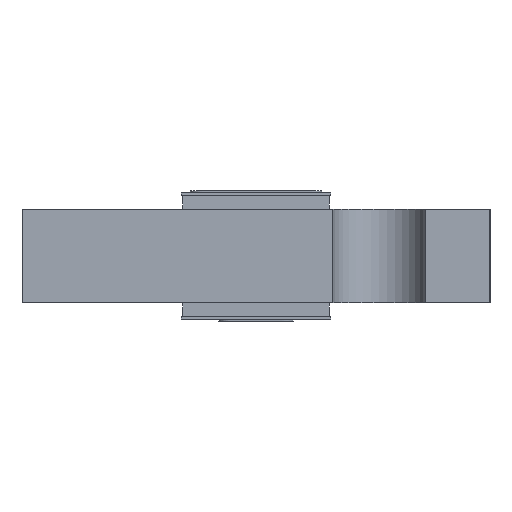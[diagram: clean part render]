
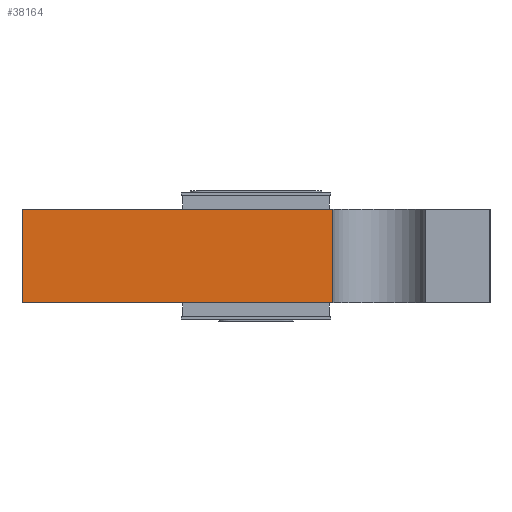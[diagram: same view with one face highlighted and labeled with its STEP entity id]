
A CAD part, left-side view. The second image highlights one B-rep face of the part: STEP entity #38164.
In plain terms, the highlighted planar face has unit normal (-1, 0, 0).
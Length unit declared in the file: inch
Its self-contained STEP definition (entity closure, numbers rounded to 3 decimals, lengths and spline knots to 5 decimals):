
#1359 = CARTESIAN_POINT ( 'NONE',  ( -1., -0.4075, 0.25 ) ) ;
#2865 = LINE ( 'NONE', #7913, #34561 ) ;
#4728 = CARTESIAN_POINT ( 'NONE',  ( -1., 1.25, -0.25 ) ) ;
#5344 = VERTEX_POINT ( 'NONE', #32727 ) ;
#6339 = ORIENTED_EDGE ( 'NONE', *, *, #43387, .F. ) ;
#6626 = CARTESIAN_POINT ( 'NONE',  ( -1., -0.4075, 0. ) ) ;
#7419 = EDGE_CURVE ( 'NONE', #36253, #5344, #13570, .T. ) ;
#7913 = CARTESIAN_POINT ( 'NONE',  ( -1., 0., 0.25 ) ) ;
#7934 = DIRECTION ( 'NONE',  ( 0., 1., 0. ) ) ;
#8063 = CARTESIAN_POINT ( 'NONE',  ( -1., 0., -0.25 ) ) ;
#9876 = ORIENTED_EDGE ( 'NONE', *, *, #35336, .F. ) ;
#9999 = LINE ( 'NONE', #6626, #30733 ) ;
#12091 = DIRECTION ( 'NONE',  ( 0., -1., 0. ) ) ;
#13570 = LINE ( 'NONE', #8063, #44024 ) ;
#13872 = VECTOR ( 'NONE', #43491, 39.37008 ) ;
#17179 = CARTESIAN_POINT ( 'NONE',  ( -1., 1.25, 0.25 ) ) ;
#23589 = LINE ( 'NONE', #53061, #13872 ) ;
#24673 = ORIENTED_EDGE ( 'NONE', *, *, #52586, .F. ) ;
#27960 = AXIS2_PLACEMENT_3D ( 'NONE', #32406, #32747, #7934 ) ;
#28578 = PLANE ( 'NONE',  #27960 ) ;
#30733 = VECTOR ( 'NONE', #31436, 39.37008 ) ;
#31029 = VERTEX_POINT ( 'NONE', #17179 ) ;
#31436 = DIRECTION ( 'NONE',  ( 0., 0., -1. ) ) ;
#32406 = CARTESIAN_POINT ( 'NONE',  ( -1., -0.4075, -0.25 ) ) ;
#32727 = CARTESIAN_POINT ( 'NONE',  ( -1., -0.4075, -0.25 ) ) ;
#32747 = DIRECTION ( 'NONE',  ( 1., 0., 0. ) ) ;
#34561 = VECTOR ( 'NONE', #12091, 39.37008 ) ;
#35336 = EDGE_CURVE ( 'NONE', #31029, #42796, #2865, .T. ) ;
#36253 = VERTEX_POINT ( 'NONE', #4728 ) ;
#37404 = DIRECTION ( 'NONE',  ( 0., -1., 0. ) ) ;
#38164 = ADVANCED_FACE ( 'NONE', ( #38369 ), #28578, .F. ) ;
#38369 = FACE_OUTER_BOUND ( 'NONE', #43722, .T. ) ;
#42796 = VERTEX_POINT ( 'NONE', #1359 ) ;
#43387 = EDGE_CURVE ( 'NONE', #36253, #31029, #23589, .T. ) ;
#43491 = DIRECTION ( 'NONE',  ( 0., 0., 1. ) ) ;
#43722 = EDGE_LOOP ( 'NONE', ( #24673, #9876, #6339, #45933 ) ) ;
#44024 = VECTOR ( 'NONE', #37404, 39.37008 ) ;
#45933 = ORIENTED_EDGE ( 'NONE', *, *, #7419, .T. ) ;
#52586 = EDGE_CURVE ( 'NONE', #42796, #5344, #9999, .T. ) ;
#53061 = CARTESIAN_POINT ( 'NONE',  ( -1., 1.25, 0. ) ) ;
